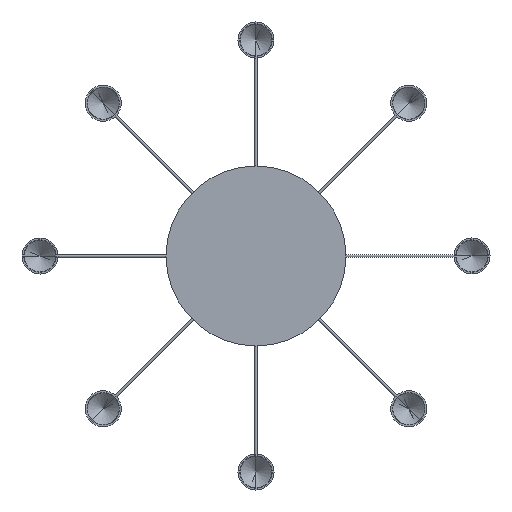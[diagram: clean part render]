
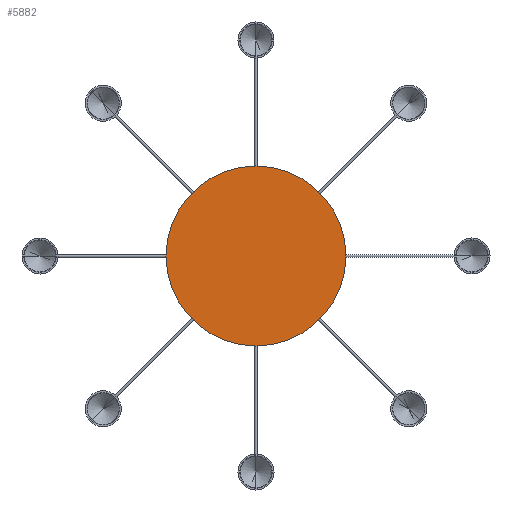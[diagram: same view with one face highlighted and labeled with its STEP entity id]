
A CAD part, front view. The second image highlights one B-rep face of the part: STEP entity #5882.
In plain terms, the highlighted planar face has unit normal (0, -1, 0).
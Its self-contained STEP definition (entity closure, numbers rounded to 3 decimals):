
#43 = FACE_OUTER_BOUND ( 'NONE', #5859, .T. ) ;
#175 = CARTESIAN_POINT ( 'NONE',  ( 0., 0., 0. ) ) ;
#235 = AXIS2_PLACEMENT_3D ( 'NONE', #175, #301, #6026 ) ;
#301 = DIRECTION ( 'NONE',  ( 0., 1., 0. ) ) ;
#435 = AXIS2_PLACEMENT_3D ( 'NONE', #6294, #5286, #2866 ) ;
#484 = EDGE_CURVE ( 'NONE', #2801, #4773, #4239, .T. ) ;
#940 = CARTESIAN_POINT ( 'NONE',  ( 0., 0., 125. ) ) ;
#1675 = CIRCLE ( 'NONE', #235, 125. ) ;
#2774 = DIRECTION ( 'NONE',  ( 0., 0., 1. ) ) ;
#2801 = VERTEX_POINT ( 'NONE', #4567 ) ;
#2866 = DIRECTION ( 'NONE',  ( 0., 0., 1. ) ) ;
#3262 = EDGE_CURVE ( 'NONE', #4773, #2801, #1675, .T. ) ;
#3432 = ORIENTED_EDGE ( 'NONE', *, *, #484, .F. ) ;
#4212 = DIRECTION ( 'NONE',  ( 0., 1., 0. ) ) ;
#4239 = CIRCLE ( 'NONE', #4441, 125. ) ;
#4441 = AXIS2_PLACEMENT_3D ( 'NONE', #5258, #4212, #2774 ) ;
#4567 = CARTESIAN_POINT ( 'NONE',  ( 0., 0., -125. ) ) ;
#4773 = VERTEX_POINT ( 'NONE', #940 ) ;
#5248 = ORIENTED_EDGE ( 'NONE', *, *, #3262, .F. ) ;
#5258 = CARTESIAN_POINT ( 'NONE',  ( 0., 0., 0. ) ) ;
#5286 = DIRECTION ( 'NONE',  ( 0., 1., 0. ) ) ;
#5664 = PLANE ( 'NONE',  #435 ) ;
#5859 = EDGE_LOOP ( 'NONE', ( #3432, #5248 ) ) ;
#5882 = ADVANCED_FACE ( 'NONE', ( #43 ), #5664, .F. ) ;
#6026 = DIRECTION ( 'NONE',  ( 0., 0., 1. ) ) ;
#6294 = CARTESIAN_POINT ( 'NONE',  ( 0., 0., 0. ) ) ;
